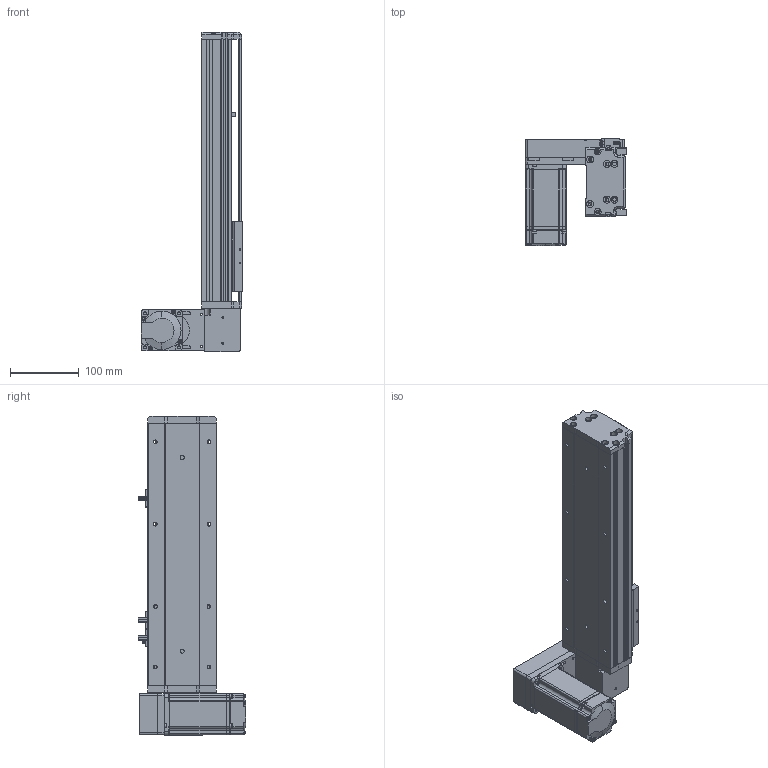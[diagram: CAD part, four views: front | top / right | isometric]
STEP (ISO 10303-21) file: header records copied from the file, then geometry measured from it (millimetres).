
FILE_DESCRIPTION (( 'STEP AP214' ), '1' );
FILE_NAME ('KSD100B-S200-MLD-CM.STEP', '2019-08-31T06:41:38', ( '微软用户' ), ( '微软中国' ), 'SwSTEP 2.0', 'SolidWorks 2014', '' );
FILE_SCHEMA (( 'AUTOMOTIVE_DESIGN' ));
Length unit declared in the file: millimetre
Products named in the file (12): 100宽马达安装板连板上下折丝杆同步带; U倰嫖萇EEㄜSX672; 覜茼え100遵圉猾敕; 100宽防尘板200行程-同步带; 100宽马达安装板同步带左; 100宽同步带安装板半封闭; 100宽马达安装板同步带; 100遵傷啣肮祭湍; 100宽底板半封闭同步带200行程; KSD100B-S200-MLD-CM; MHMD042G1CA_2_03; 悵誘欶奻狟殏
Assembly tree (13 placements, depth 2):
  KSD100B-S200-MLD-CM
    100宽底板半封闭同步带200行程
    100遵傷啣肮祭湍
    100宽马达安装板同步带
    100宽同步带安装板半封闭
    100宽马达安装板同步带左
    100宽防尘板200行程-同步带
    覜茼え100遵圉猾敕
    U倰嫖萇EEㄜSX672  x3
    100宽马达安装板连板上下折丝杆同步带
    悵誘欶奻狟殏
    MHMD042G1CA_2_03
Bounding box: 148 x 156.2 x 465 mm (x, y, z)
Volume: 1044774 mm3; surface area: 445158.7 mm2
Topology: 12 solids, 13 shells, 1529 faces, 4325 edges, 2820 vertices
Faces by surface type: plane 704, cylinder 695, cone 112, bspline 18
Entity records: 55962 total; most frequent: CARTESIAN_POINT 9666, DIRECTION 7648, ORIENTED_EDGE 7230, EDGE_CURVE 3687, AXIS2_PLACEMENT_3D 2738, VERTEX_POINT 2444, LINE 2172, VECTOR 2172
